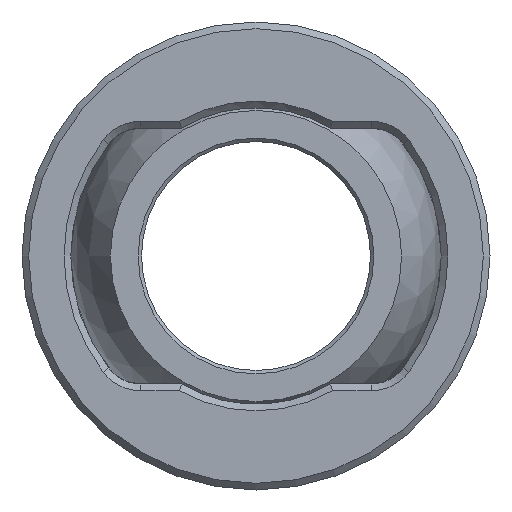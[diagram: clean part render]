
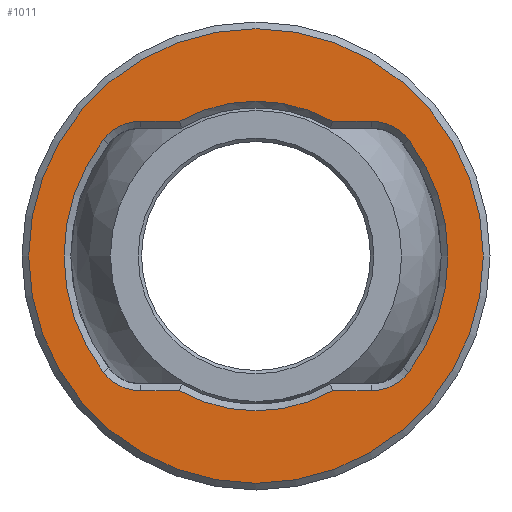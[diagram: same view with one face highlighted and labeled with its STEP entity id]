
A CAD part, front view. The second image highlights one B-rep face of the part: STEP entity #1011.
In plain terms, the highlighted planar face has unit normal (0, -1, 0).
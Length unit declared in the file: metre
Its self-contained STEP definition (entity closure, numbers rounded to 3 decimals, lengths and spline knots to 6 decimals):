
#1011=ADVANCED_FACE('',(#1874,#1875),#1876,.F.);
#1874=FACE_BOUND('',#3606,.T.);
#1875=FACE_OUTER_BOUND('',#3607,.T.);
#1876=PLANE('',#3608);
#3606=EDGE_LOOP('',(#4863,#4864,#4865,#4866,#4867,#4868,#4869,#4870,#4871,#4872,#4873,#4874));
#3607=EDGE_LOOP('',(#4875));
#3608=AXIS2_PLACEMENT_3D('',#4876,#4877,#4878);
#4863=ORIENTED_EDGE('',*,*,#5140,.T.);
#4864=ORIENTED_EDGE('',*,*,#5184,.T.);
#4865=ORIENTED_EDGE('',*,*,#5159,.T.);
#4866=ORIENTED_EDGE('',*,*,#5185,.T.);
#4867=ORIENTED_EDGE('',*,*,#5112,.T.);
#4868=ORIENTED_EDGE('',*,*,#5172,.T.);
#4869=ORIENTED_EDGE('',*,*,#5186,.T.);
#4870=ORIENTED_EDGE('',*,*,#5109,.T.);
#4871=ORIENTED_EDGE('',*,*,#5129,.T.);
#4872=ORIENTED_EDGE('',*,*,#5083,.T.);
#4873=ORIENTED_EDGE('',*,*,#5099,.T.);
#4874=ORIENTED_EDGE('',*,*,#5187,.T.);
#4875=ORIENTED_EDGE('',*,*,#5153,.F.);
#4876=CARTESIAN_POINT('',(0.187624,0.006721,0.0));
#4877=DIRECTION('',(0.0,1.0,0.0));
#4878=DIRECTION('',(0.0,0.0,1.0));
#5083=EDGE_CURVE('',#5210,#5208,#5211,.T.);
#5099=EDGE_CURVE('',#5208,#5236,#5238,.T.);
#5109=EDGE_CURVE('',#5250,#5252,#5254,.T.);
#5112=EDGE_CURVE('',#5259,#5257,#5260,.T.);
#5129=EDGE_CURVE('',#5252,#5210,#5285,.T.);
#5140=EDGE_CURVE('',#5302,#5300,#5303,.T.);
#5153=EDGE_CURVE('',#5320,#5320,#5321,.T.);
#5159=EDGE_CURVE('',#5330,#5328,#5331,.T.);
#5172=EDGE_CURVE('',#5257,#5346,#5348,.T.);
#5184=EDGE_CURVE('',#5300,#5330,#5364,.T.);
#5185=EDGE_CURVE('',#5328,#5259,#5365,.T.);
#5186=EDGE_CURVE('',#5346,#5250,#5366,.T.);
#5187=EDGE_CURVE('',#5236,#5302,#5367,.T.);
#5208=VERTEX_POINT('',#5389);
#5210=VERTEX_POINT('',#5392);
#5211=CIRCLE('',#5393,0.0285);
#5236=VERTEX_POINT('',#5422);
#5238=CIRCLE('',#5425,0.007);
#5250=VERTEX_POINT('',#5440);
#5252=VERTEX_POINT('',#5445);
#5254=LINE('',#5448,#5449);
#5257=VERTEX_POINT('',#5452);
#5259=VERTEX_POINT('',#5455);
#5260=CIRCLE('',#5456,0.007);
#5285=CIRCLE('',#5483,0.007);
#5300=VERTEX_POINT('',#5498);
#5302=VERTEX_POINT('',#5503);
#5303=CIRCLE('',#5504,0.023);
#5320=VERTEX_POINT('',#5544);
#5321=CIRCLE('',#5545,0.03375);
#5328=VERTEX_POINT('',#5552);
#5330=VERTEX_POINT('',#5555);
#5331=CIRCLE('',#5556,0.007);
#5346=VERTEX_POINT('',#5589);
#5348=LINE('',#5594,#5595);
#5364=LINE('',#5644,#5645);
#5365=CIRCLE('',#5646,0.0285);
#5366=CIRCLE('',#5647,0.023);
#5367=LINE('',#5648,#5649);
#5389=CARTESIAN_POINT('',(0.187324,0.006721,-0.017233));
#5392=CARTESIAN_POINT('',(0.187324,0.006721,0.017233));
#5393=AXIS2_PLACEMENT_3D('',#5673,#5674,#5675);
#5422=CARTESIAN_POINT('',(0.181748,0.006721,-0.02));
#5425=AXIS2_PLACEMENT_3D('',#5699,#5700,#5701);
#5440=CARTESIAN_POINT('',(0.175982,0.006721,0.02));
#5445=CARTESIAN_POINT('',(0.181748,0.006721,0.02));
#5448=CARTESIAN_POINT('',(0.187624,0.006721,0.02));
#5449=VECTOR('',#5712,1.0);
#5452=CARTESIAN_POINT('',(0.147499,0.006721,0.02));
#5455=CARTESIAN_POINT('',(0.141924,0.006721,0.017233));
#5456=AXIS2_PLACEMENT_3D('',#5714,#5715,#5716);
#5483=AXIS2_PLACEMENT_3D('',#5743,#5744,#5745);
#5498=CARTESIAN_POINT('',(0.153266,0.006721,-0.02));
#5503=CARTESIAN_POINT('',(0.175982,0.006721,-0.02));
#5504=AXIS2_PLACEMENT_3D('',#5764,#5765,#5766);
#5544=CARTESIAN_POINT('',(0.164624,0.006721,0.03375));
#5545=AXIS2_PLACEMENT_3D('',#5777,#5778,#5779);
#5552=CARTESIAN_POINT('',(0.141924,0.006721,-0.017233));
#5555=CARTESIAN_POINT('',(0.147499,0.006721,-0.02));
#5556=AXIS2_PLACEMENT_3D('',#5784,#5785,#5786);
#5589=CARTESIAN_POINT('',(0.153266,0.006721,0.02));
#5594=CARTESIAN_POINT('',(0.187624,0.006721,0.02));
#5595=VECTOR('',#5798,1.0);
#5644=CARTESIAN_POINT('',(0.187624,0.006721,-0.02));
#5645=VECTOR('',#5815,1.0);
#5646=AXIS2_PLACEMENT_3D('',#5816,#5817,#5818);
#5647=AXIS2_PLACEMENT_3D('',#5819,#5820,#5821);
#5648=CARTESIAN_POINT('',(0.187624,0.006721,-0.02));
#5649=VECTOR('',#5822,1.0);
#5673=CARTESIAN_POINT('',(0.164624,0.006721,0.));
#5674=DIRECTION('',(0.0,1.0,0.0));
#5675=DIRECTION('',(0.0,0.0,1.0));
#5699=CARTESIAN_POINT('',(0.181748,0.006721,-0.013));
#5700=DIRECTION('',(0.0,1.0,0.0));
#5701=DIRECTION('',(0.0,0.0,1.0));
#5712=DIRECTION('',(1.0,0.0,0.));
#5714=CARTESIAN_POINT('',(0.147499,0.006721,0.013));
#5715=DIRECTION('',(0.0,1.0,0.0));
#5716=DIRECTION('',(0.0,0.0,1.0));
#5743=CARTESIAN_POINT('',(0.181748,0.006721,0.013));
#5744=DIRECTION('',(0.0,1.0,0.0));
#5745=DIRECTION('',(0.0,0.0,1.0));
#5764=CARTESIAN_POINT('',(0.164624,0.006721,0.0));
#5765=DIRECTION('',(0.0,1.0,0.0));
#5766=DIRECTION('',(0.0,0.0,1.0));
#5777=CARTESIAN_POINT('',(0.164624,0.006721,0.0));
#5778=DIRECTION('',(0.0,1.0,0.0));
#5779=DIRECTION('',(0.0,0.0,1.0));
#5784=CARTESIAN_POINT('',(0.147499,0.006721,-0.013));
#5785=DIRECTION('',(0.0,1.0,0.0));
#5786=DIRECTION('',(0.0,0.0,1.0));
#5798=DIRECTION('',(1.0,0.0,0.));
#5815=DIRECTION('',(-1.0,0.0,0.));
#5816=CARTESIAN_POINT('',(0.164624,0.006721,0.));
#5817=DIRECTION('',(0.0,1.0,0.0));
#5818=DIRECTION('',(0.0,0.0,1.0));
#5819=CARTESIAN_POINT('',(0.164624,0.006721,0.0));
#5820=DIRECTION('',(0.0,1.0,0.0));
#5821=DIRECTION('',(0.0,0.0,1.0));
#5822=DIRECTION('',(-1.0,0.0,0.));
